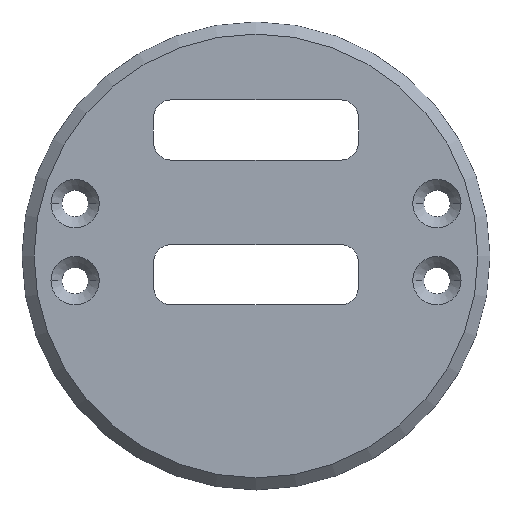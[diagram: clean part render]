
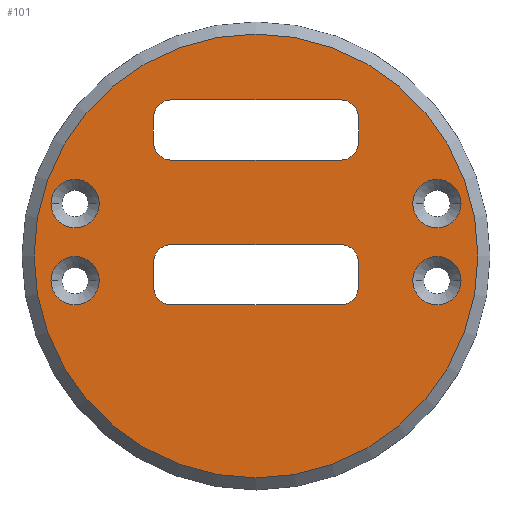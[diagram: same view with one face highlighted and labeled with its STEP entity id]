
A CAD part, left-side view. The second image highlights one B-rep face of the part: STEP entity #101.
In plain terms, the highlighted planar face has unit normal (-1, 0, 0).
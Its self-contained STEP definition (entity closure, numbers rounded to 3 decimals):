
#70=FACE_BOUND('',#235,.F.);
#71=FACE_BOUND('',#236,.F.);
#72=FACE_BOUND('',#237,.F.);
#73=FACE_BOUND('',#238,.F.);
#74=FACE_BOUND('',#239,.F.);
#75=FACE_BOUND('',#240,.F.);
#79=PLANE('',#1255);
#101=ADVANCED_FACE('',(#70,#71,#72,#73,#74,#75,#165),#79,.T.);
#165=FACE_OUTER_BOUND('',#241,.F.);
#235=EDGE_LOOP('',(#338,#339,#340,#341,#342,#343,#344,#345));
#236=EDGE_LOOP('',(#346,#347));
#237=EDGE_LOOP('',(#348,#349));
#238=EDGE_LOOP('',(#350,#351));
#239=EDGE_LOOP('',(#352,#353));
#240=EDGE_LOOP('',(#354,#355,#356,#357,#358,#359,#360,#361));
#241=EDGE_LOOP('',(#362,#363));
#338=ORIENTED_EDGE('',*,*,#877,.T.);
#339=ORIENTED_EDGE('',*,*,#872,.T.);
#340=ORIENTED_EDGE('',*,*,#876,.T.);
#341=ORIENTED_EDGE('',*,*,#873,.T.);
#342=ORIENTED_EDGE('',*,*,#875,.T.);
#343=ORIENTED_EDGE('',*,*,#871,.T.);
#344=ORIENTED_EDGE('',*,*,#874,.T.);
#345=ORIENTED_EDGE('',*,*,#870,.T.);
#346=ORIENTED_EDGE('',*,*,#899,.T.);
#347=ORIENTED_EDGE('',*,*,#898,.T.);
#348=ORIENTED_EDGE('',*,*,#907,.T.);
#349=ORIENTED_EDGE('',*,*,#906,.T.);
#350=ORIENTED_EDGE('',*,*,#911,.T.);
#351=ORIENTED_EDGE('',*,*,#910,.T.);
#352=ORIENTED_EDGE('',*,*,#903,.T.);
#353=ORIENTED_EDGE('',*,*,#902,.T.);
#354=ORIENTED_EDGE('',*,*,#861,.T.);
#355=ORIENTED_EDGE('',*,*,#856,.T.);
#356=ORIENTED_EDGE('',*,*,#860,.T.);
#357=ORIENTED_EDGE('',*,*,#857,.T.);
#358=ORIENTED_EDGE('',*,*,#859,.T.);
#359=ORIENTED_EDGE('',*,*,#855,.T.);
#360=ORIENTED_EDGE('',*,*,#858,.T.);
#361=ORIENTED_EDGE('',*,*,#854,.T.);
#362=ORIENTED_EDGE('',*,*,#897,.F.);
#363=ORIENTED_EDGE('',*,*,#895,.F.);
#666=LINE('',#1796,#758);
#667=LINE('',#1797,#759);
#668=LINE('',#1798,#760);
#669=LINE('',#1799,#761);
#674=LINE('',#1812,#766);
#675=LINE('',#1813,#767);
#676=LINE('',#1814,#768);
#677=LINE('',#1815,#769);
#758=VECTOR('',#1339,2.);
#759=VECTOR('',#1340,14.);
#760=VECTOR('',#1341,2.);
#761=VECTOR('',#1342,14.);
#766=VECTOR('',#1363,2.);
#767=VECTOR('',#1364,14.);
#768=VECTOR('',#1365,2.);
#769=VECTOR('',#1366,14.);
#854=EDGE_CURVE('',#1171,#1170,#1012,.T.);
#855=EDGE_CURVE('',#1169,#1168,#1013,.T.);
#856=EDGE_CURVE('',#1167,#1166,#1014,.T.);
#857=EDGE_CURVE('',#1165,#1164,#1015,.T.);
#858=EDGE_CURVE('',#1168,#1171,#666,.T.);
#859=EDGE_CURVE('',#1164,#1169,#667,.T.);
#860=EDGE_CURVE('',#1166,#1165,#668,.T.);
#861=EDGE_CURVE('',#1170,#1167,#669,.T.);
#870=EDGE_CURVE('',#1155,#1154,#1020,.T.);
#871=EDGE_CURVE('',#1153,#1152,#1021,.T.);
#872=EDGE_CURVE('',#1151,#1150,#1022,.T.);
#873=EDGE_CURVE('',#1149,#1148,#1023,.T.);
#874=EDGE_CURVE('',#1152,#1155,#674,.T.);
#875=EDGE_CURVE('',#1148,#1153,#675,.T.);
#876=EDGE_CURVE('',#1150,#1149,#676,.T.);
#877=EDGE_CURVE('',#1154,#1151,#677,.T.);
#895=EDGE_CURVE('',#1129,#1128,#1033,.T.);
#897=EDGE_CURVE('',#1128,#1129,#1035,.T.);
#898=EDGE_CURVE('',#1127,#1126,#1036,.T.);
#899=EDGE_CURVE('',#1126,#1127,#1037,.T.);
#902=EDGE_CURVE('',#1123,#1122,#1040,.T.);
#903=EDGE_CURVE('',#1122,#1123,#1041,.T.);
#906=EDGE_CURVE('',#1119,#1118,#1044,.T.);
#907=EDGE_CURVE('',#1118,#1119,#1045,.T.);
#910=EDGE_CURVE('',#1115,#1114,#1048,.T.);
#911=EDGE_CURVE('',#1114,#1115,#1049,.T.);
#1012=CIRCLE('',#1186,1.5);
#1013=CIRCLE('',#1187,1.5);
#1014=CIRCLE('',#1188,1.5);
#1015=CIRCLE('',#1189,1.5);
#1020=CIRCLE('',#1194,1.5);
#1021=CIRCLE('',#1195,1.5);
#1022=CIRCLE('',#1196,1.5);
#1023=CIRCLE('',#1197,1.5);
#1033=CIRCLE('',#1207,18.4);
#1035=CIRCLE('',#1209,18.4);
#1036=CIRCLE('',#1210,2.);
#1037=CIRCLE('',#1211,2.);
#1040=CIRCLE('',#1214,2.);
#1041=CIRCLE('',#1215,2.);
#1044=CIRCLE('',#1218,2.);
#1045=CIRCLE('',#1219,2.);
#1048=CIRCLE('',#1222,2.);
#1049=CIRCLE('',#1223,2.);
#1114=VERTEX_POINT('',#1718);
#1115=VERTEX_POINT('',#1719);
#1118=VERTEX_POINT('',#1722);
#1119=VERTEX_POINT('',#1723);
#1122=VERTEX_POINT('',#1726);
#1123=VERTEX_POINT('',#1727);
#1126=VERTEX_POINT('',#1730);
#1127=VERTEX_POINT('',#1731);
#1128=VERTEX_POINT('',#1732);
#1129=VERTEX_POINT('',#1733);
#1148=VERTEX_POINT('',#1752);
#1149=VERTEX_POINT('',#1753);
#1150=VERTEX_POINT('',#1754);
#1151=VERTEX_POINT('',#1755);
#1152=VERTEX_POINT('',#1756);
#1153=VERTEX_POINT('',#1757);
#1154=VERTEX_POINT('',#1758);
#1155=VERTEX_POINT('',#1759);
#1164=VERTEX_POINT('',#1768);
#1165=VERTEX_POINT('',#1769);
#1166=VERTEX_POINT('',#1770);
#1167=VERTEX_POINT('',#1771);
#1168=VERTEX_POINT('',#1772);
#1169=VERTEX_POINT('',#1773);
#1170=VERTEX_POINT('',#1774);
#1171=VERTEX_POINT('',#1775);
#1186=AXIS2_PLACEMENT_3D('',#1792,#1331,#1332);
#1187=AXIS2_PLACEMENT_3D('',#1793,#1333,#1334);
#1188=AXIS2_PLACEMENT_3D('',#1794,#1335,#1336);
#1189=AXIS2_PLACEMENT_3D('',#1795,#1337,#1338);
#1194=AXIS2_PLACEMENT_3D('',#1808,#1355,#1356);
#1195=AXIS2_PLACEMENT_3D('',#1809,#1357,#1358);
#1196=AXIS2_PLACEMENT_3D('',#1810,#1359,#1360);
#1197=AXIS2_PLACEMENT_3D('',#1811,#1361,#1362);
#1207=AXIS2_PLACEMENT_3D('',#1833,#1393,#1394);
#1209=AXIS2_PLACEMENT_3D('',#1835,#1397,#1398);
#1210=AXIS2_PLACEMENT_3D('',#1836,#1399,#1400);
#1211=AXIS2_PLACEMENT_3D('',#1837,#1401,#1402);
#1214=AXIS2_PLACEMENT_3D('',#1840,#1407,#1408);
#1215=AXIS2_PLACEMENT_3D('',#1841,#1409,#1410);
#1218=AXIS2_PLACEMENT_3D('',#1844,#1415,#1416);
#1219=AXIS2_PLACEMENT_3D('',#1845,#1417,#1418);
#1222=AXIS2_PLACEMENT_3D('',#1848,#1423,#1424);
#1223=AXIS2_PLACEMENT_3D('',#1849,#1425,#1426);
#1255=AXIS2_PLACEMENT_3D('',#1949,#1557,#1558);
#1331=DIRECTION('',(-1.,0.,0.));
#1332=DIRECTION('',(0.,-1.,0.));
#1333=DIRECTION('',(-1.,0.,0.));
#1334=DIRECTION('',(0.,0.,-1.));
#1335=DIRECTION('',(-1.,0.,0.));
#1336=DIRECTION('',(0.,0.,1.));
#1337=DIRECTION('',(-1.,0.,0.));
#1338=DIRECTION('',(0.,1.,0.));
#1339=DIRECTION('',(0.,0.,1.));
#1340=DIRECTION('',(0.,-1.,0.));
#1341=DIRECTION('',(0.,0.,-1.));
#1342=DIRECTION('',(0.,1.,0.));
#1355=DIRECTION('',(-1.,0.,0.));
#1356=DIRECTION('',(0.,-1.,0.));
#1357=DIRECTION('',(-1.,0.,0.));
#1358=DIRECTION('',(0.,0.,-1.));
#1359=DIRECTION('',(-1.,0.,0.));
#1360=DIRECTION('',(0.,0.,1.));
#1361=DIRECTION('',(-1.,0.,0.));
#1362=DIRECTION('',(0.,1.,0.));
#1363=DIRECTION('',(0.,0.,1.));
#1364=DIRECTION('',(0.,-1.,0.));
#1365=DIRECTION('',(0.,0.,-1.));
#1366=DIRECTION('',(0.,1.,0.));
#1393=DIRECTION('',(-1.,0.,0.));
#1394=DIRECTION('',(0.,1.,0.));
#1397=DIRECTION('',(-1.,0.,0.));
#1398=DIRECTION('',(0.,-1.,0.));
#1399=DIRECTION('',(-1.,0.,0.));
#1400=DIRECTION('',(0.,1.,0.));
#1401=DIRECTION('',(-1.,0.,0.));
#1402=DIRECTION('',(0.,-1.,0.));
#1407=DIRECTION('',(-1.,0.,0.));
#1408=DIRECTION('',(0.,1.,0.));
#1409=DIRECTION('',(-1.,0.,0.));
#1410=DIRECTION('',(0.,-1.,0.));
#1415=DIRECTION('',(-1.,0.,0.));
#1416=DIRECTION('',(0.,1.,0.));
#1417=DIRECTION('',(-1.,0.,0.));
#1418=DIRECTION('',(0.,-1.,0.));
#1423=DIRECTION('',(-1.,0.,0.));
#1424=DIRECTION('',(0.,1.,0.));
#1425=DIRECTION('',(-1.,0.,0.));
#1426=DIRECTION('',(0.,-1.,0.));
#1557=DIRECTION('',(-1.,0.,0.));
#1558=DIRECTION('',(0.,0.,1.));
#1718=CARTESIAN_POINT('',(-34.8,-17.,-96.5));
#1719=CARTESIAN_POINT('',(-34.8,-13.,-96.5));
#1722=CARTESIAN_POINT('',(-34.8,-17.,-102.9));
#1723=CARTESIAN_POINT('',(-34.8,-13.,-102.9));
#1726=CARTESIAN_POINT('',(-34.8,13.,-96.5));
#1727=CARTESIAN_POINT('',(-34.8,17.,-96.5));
#1730=CARTESIAN_POINT('',(-34.8,13.,-102.9));
#1731=CARTESIAN_POINT('',(-34.8,17.,-102.9));
#1732=CARTESIAN_POINT('',(-34.8,-18.4,-100.849));
#1733=CARTESIAN_POINT('',(-34.8,18.4,-100.849));
#1752=CARTESIAN_POINT('',(-34.8,7.,-104.903));
#1753=CARTESIAN_POINT('',(-34.8,8.5,-103.403));
#1754=CARTESIAN_POINT('',(-34.8,8.5,-101.403));
#1755=CARTESIAN_POINT('',(-34.8,7.,-99.903));
#1756=CARTESIAN_POINT('',(-34.8,-8.5,-103.403));
#1757=CARTESIAN_POINT('',(-34.8,-7.,-104.903));
#1758=CARTESIAN_POINT('',(-34.8,-7.,-99.903));
#1759=CARTESIAN_POINT('',(-34.8,-8.5,-101.403));
#1768=CARTESIAN_POINT('',(-34.8,7.,-92.903));
#1769=CARTESIAN_POINT('',(-34.8,8.5,-91.403));
#1770=CARTESIAN_POINT('',(-34.8,8.5,-89.403));
#1771=CARTESIAN_POINT('',(-34.8,7.,-87.903));
#1772=CARTESIAN_POINT('',(-34.8,-8.5,-91.403));
#1773=CARTESIAN_POINT('',(-34.8,-7.,-92.903));
#1774=CARTESIAN_POINT('',(-34.8,-7.,-87.903));
#1775=CARTESIAN_POINT('',(-34.8,-8.5,-89.403));
#1792=CARTESIAN_POINT('',(-34.8,-7.,-89.403));
#1793=CARTESIAN_POINT('',(-34.8,-7.,-91.403));
#1794=CARTESIAN_POINT('',(-34.8,7.,-89.403));
#1795=CARTESIAN_POINT('',(-34.8,7.,-91.403));
#1796=CARTESIAN_POINT('',(-34.8,-8.5,-91.403));
#1797=CARTESIAN_POINT('',(-34.8,7.,-92.903));
#1798=CARTESIAN_POINT('',(-34.8,8.5,-89.403));
#1799=CARTESIAN_POINT('',(-34.8,-7.,-87.903));
#1808=CARTESIAN_POINT('',(-34.8,-7.,-101.403));
#1809=CARTESIAN_POINT('',(-34.8,-7.,-103.403));
#1810=CARTESIAN_POINT('',(-34.8,7.,-101.403));
#1811=CARTESIAN_POINT('',(-34.8,7.,-103.403));
#1812=CARTESIAN_POINT('',(-34.8,-8.5,-103.403));
#1813=CARTESIAN_POINT('',(-34.8,7.,-104.903));
#1814=CARTESIAN_POINT('',(-34.8,8.5,-101.403));
#1815=CARTESIAN_POINT('',(-34.8,-7.,-99.903));
#1833=CARTESIAN_POINT('',(-34.8,0.,-100.849));
#1835=CARTESIAN_POINT('',(-34.8,0.,-100.849));
#1836=CARTESIAN_POINT('',(-34.8,15.,-102.9));
#1837=CARTESIAN_POINT('',(-34.8,15.,-102.9));
#1840=CARTESIAN_POINT('',(-34.8,15.,-96.5));
#1841=CARTESIAN_POINT('',(-34.8,15.,-96.5));
#1844=CARTESIAN_POINT('',(-34.8,-15.,-102.9));
#1845=CARTESIAN_POINT('',(-34.8,-15.,-102.9));
#1848=CARTESIAN_POINT('',(-34.8,-15.,-96.5));
#1849=CARTESIAN_POINT('',(-34.8,-15.,-96.5));
#1949=CARTESIAN_POINT('',(-34.8,-19.4,-120.249));
